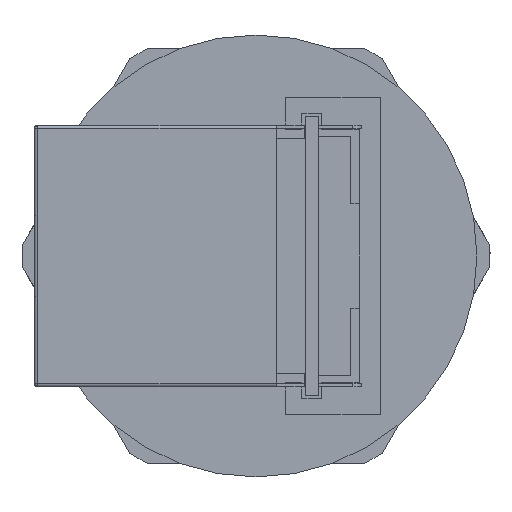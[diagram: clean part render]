
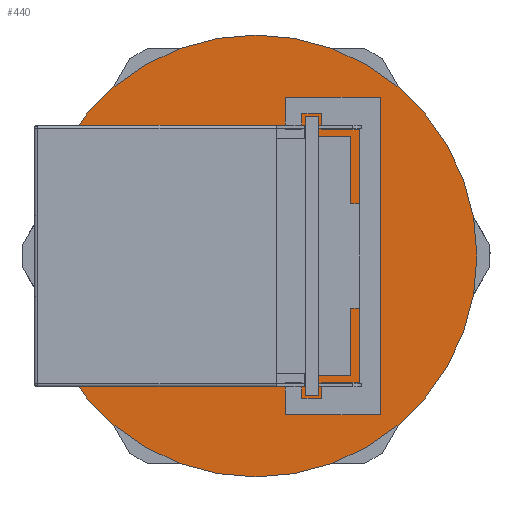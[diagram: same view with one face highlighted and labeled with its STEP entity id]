
A CAD part, left-side view. The second image highlights one B-rep face of the part: STEP entity #440.
In plain terms, the highlighted planar face has unit normal (-1, 0, 0).
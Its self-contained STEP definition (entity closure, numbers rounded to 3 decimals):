
#71=FACE_BOUND('',#1611,.T.);
#72=FACE_BOUND('',#1612,.T.);
#268=CIRCLE('',#8961,8.8);
#274=CIRCLE('',#8975,13.5);
#275=CIRCLE('',#8976,13.5);
#440=ADVANCED_FACE('',(#71,#72),#876,.T.);
#876=PLANE('',#8977);
#1611=EDGE_LOOP('',(#2361,#2362,#2363,#2364,#2365,#2366,#2367,#2368,#2369,
#2370,#2371,#2372,#2373,#2374,#2375,#2376,#2377,#2378,#2379,#2380,#2381,
#2382,#2383,#2384,#2385,#2386,#2387,#2388,#2389,#2390,#2391,#2392,#2393,
#2394,#2395,#2396));
#1612=EDGE_LOOP('',(#2397,#2398));
#2361=ORIENTED_EDGE('',*,*,#5793,.F.);
#2362=ORIENTED_EDGE('',*,*,#5726,.F.);
#2363=ORIENTED_EDGE('',*,*,#5735,.F.);
#2364=ORIENTED_EDGE('',*,*,#5750,.T.);
#2365=ORIENTED_EDGE('',*,*,#5757,.F.);
#2366=ORIENTED_EDGE('',*,*,#5794,.F.);
#2367=ORIENTED_EDGE('',*,*,#5795,.F.);
#2368=ORIENTED_EDGE('',*,*,#5796,.F.);
#2369=ORIENTED_EDGE('',*,*,#5797,.F.);
#2370=ORIENTED_EDGE('',*,*,#5798,.F.);
#2371=ORIENTED_EDGE('',*,*,#5764,.F.);
#2372=ORIENTED_EDGE('',*,*,#5799,.F.);
#2373=ORIENTED_EDGE('',*,*,#5800,.F.);
#2374=ORIENTED_EDGE('',*,*,#5801,.F.);
#2375=ORIENTED_EDGE('',*,*,#5768,.F.);
#2376=ORIENTED_EDGE('',*,*,#5802,.F.);
#2377=ORIENTED_EDGE('',*,*,#5803,.F.);
#2378=ORIENTED_EDGE('',*,*,#5804,.F.);
#2379=ORIENTED_EDGE('',*,*,#5805,.F.);
#2380=ORIENTED_EDGE('',*,*,#5806,.F.);
#2381=ORIENTED_EDGE('',*,*,#5753,.F.);
#2382=ORIENTED_EDGE('',*,*,#5786,.T.);
#2383=ORIENTED_EDGE('',*,*,#5731,.F.);
#2384=ORIENTED_EDGE('',*,*,#5739,.F.);
#2385=ORIENTED_EDGE('',*,*,#5807,.F.);
#2386=ORIENTED_EDGE('',*,*,#5808,.T.);
#2387=ORIENTED_EDGE('',*,*,#5809,.T.);
#2388=ORIENTED_EDGE('',*,*,#5737,.F.);
#2389=ORIENTED_EDGE('',*,*,#5722,.F.);
#2390=ORIENTED_EDGE('',*,*,#5745,.F.);
#2391=ORIENTED_EDGE('',*,*,#5747,.F.);
#2392=ORIENTED_EDGE('',*,*,#5741,.F.);
#2393=ORIENTED_EDGE('',*,*,#5718,.F.);
#2394=ORIENTED_EDGE('',*,*,#5728,.F.);
#2395=ORIENTED_EDGE('',*,*,#5810,.T.);
#2396=ORIENTED_EDGE('',*,*,#5811,.F.);
#2397=ORIENTED_EDGE('',*,*,#5812,.F.);
#2398=ORIENTED_EDGE('',*,*,#5813,.T.);
#4857=VERTEX_POINT('',#12722);
#4858=VERTEX_POINT('',#12724);
#4861=VERTEX_POINT('',#12731);
#4862=VERTEX_POINT('',#12733);
#4864=VERTEX_POINT('',#12739);
#4865=VERTEX_POINT('',#12741);
#4866=VERTEX_POINT('',#12743);
#4869=VERTEX_POINT('',#12750);
#4870=VERTEX_POINT('',#12752);
#4872=VERTEX_POINT('',#12758);
#4873=VERTEX_POINT('',#12763);
#4874=VERTEX_POINT('',#12765);
#4876=VERTEX_POINT('',#12771);
#4878=VERTEX_POINT('',#12777);
#4880=VERTEX_POINT('',#12786);
#4882=VERTEX_POINT('',#12792);
#4883=VERTEX_POINT('',#12794);
#4886=VERTEX_POINT('',#12800);
#4887=VERTEX_POINT('',#12804);
#4893=VERTEX_POINT('',#12815);
#4897=VERTEX_POINT('',#12824);
#4898=VERTEX_POINT('',#12826);
#4916=VERTEX_POINT('',#12894);
#4917=VERTEX_POINT('',#12896);
#4918=VERTEX_POINT('',#12898);
#4919=VERTEX_POINT('',#12900);
#4920=VERTEX_POINT('',#12902);
#4921=VERTEX_POINT('',#12905);
#4922=VERTEX_POINT('',#12907);
#4923=VERTEX_POINT('',#12910);
#4924=VERTEX_POINT('',#12912);
#4925=VERTEX_POINT('',#12914);
#4926=VERTEX_POINT('',#12916);
#4927=VERTEX_POINT('',#12919);
#4928=VERTEX_POINT('',#12921);
#4929=VERTEX_POINT('',#12924);
#4930=VERTEX_POINT('',#12927);
#4931=VERTEX_POINT('',#12928);
#5718=EDGE_CURVE('',#4857,#4858,#6992,.T.);
#5722=EDGE_CURVE('',#4861,#4862,#6996,.T.);
#5726=EDGE_CURVE('',#4864,#4865,#7000,.T.);
#5728=EDGE_CURVE('',#4866,#4857,#7002,.T.);
#5731=EDGE_CURVE('',#4869,#4870,#7005,.T.);
#5735=EDGE_CURVE('',#4872,#4864,#7009,.T.);
#5737=EDGE_CURVE('',#4862,#4873,#7011,.T.);
#5739=EDGE_CURVE('',#4874,#4869,#7013,.T.);
#5741=EDGE_CURVE('',#4858,#4876,#7015,.T.);
#5745=EDGE_CURVE('',#4878,#4861,#7019,.T.);
#5747=EDGE_CURVE('',#4876,#4878,#268,.T.);
#5750=EDGE_CURVE('',#4872,#4880,#7022,.T.);
#5753=EDGE_CURVE('',#4882,#4883,#7025,.T.);
#5757=EDGE_CURVE('',#4886,#4880,#7029,.T.);
#5764=EDGE_CURVE('',#4893,#4887,#7035,.T.);
#5768=EDGE_CURVE('',#4897,#4898,#7038,.T.);
#5786=EDGE_CURVE('',#4882,#4870,#7056,.T.);
#5793=EDGE_CURVE('',#4865,#4916,#7057,.T.);
#5794=EDGE_CURVE('',#4917,#4886,#7058,.T.);
#5795=EDGE_CURVE('',#4918,#4917,#7059,.T.);
#5796=EDGE_CURVE('',#4919,#4918,#7060,.T.);
#5797=EDGE_CURVE('',#4920,#4919,#7061,.T.);
#5798=EDGE_CURVE('',#4887,#4920,#7062,.T.);
#5799=EDGE_CURVE('',#4921,#4893,#7063,.T.);
#5800=EDGE_CURVE('',#4922,#4921,#7064,.T.);
#5801=EDGE_CURVE('',#4898,#4922,#7065,.T.);
#5802=EDGE_CURVE('',#4923,#4897,#7066,.T.);
#5803=EDGE_CURVE('',#4924,#4923,#7067,.T.);
#5804=EDGE_CURVE('',#4925,#4924,#7068,.T.);
#5805=EDGE_CURVE('',#4926,#4925,#7069,.T.);
#5806=EDGE_CURVE('',#4883,#4926,#7070,.T.);
#5807=EDGE_CURVE('',#4927,#4874,#7071,.T.);
#5808=EDGE_CURVE('',#4927,#4928,#7072,.T.);
#5809=EDGE_CURVE('',#4928,#4873,#7073,.T.);
#5810=EDGE_CURVE('',#4866,#4929,#7074,.T.);
#5811=EDGE_CURVE('',#4916,#4929,#7075,.T.);
#5812=EDGE_CURVE('',#4930,#4931,#274,.T.);
#5813=EDGE_CURVE('',#4930,#4931,#275,.T.);
#6992=LINE('',#12723,#7980);
#6996=LINE('',#12732,#7984);
#7000=LINE('',#12740,#7988);
#7002=LINE('',#12744,#7990);
#7005=LINE('',#12751,#7993);
#7009=LINE('',#12759,#7997);
#7011=LINE('',#12762,#7999);
#7013=LINE('',#12766,#8001);
#7015=LINE('',#12770,#8003);
#7019=LINE('',#12778,#8007);
#7022=LINE('',#12787,#8010);
#7025=LINE('',#12793,#8013);
#7029=LINE('',#12801,#8017);
#7035=LINE('',#12816,#8023);
#7038=LINE('',#12825,#8026);
#7056=LINE('',#12858,#8044);
#7057=LINE('',#12893,#8045);
#7058=LINE('',#12895,#8046);
#7059=LINE('',#12897,#8047);
#7060=LINE('',#12899,#8048);
#7061=LINE('',#12901,#8049);
#7062=LINE('',#12903,#8050);
#7063=LINE('',#12904,#8051);
#7064=LINE('',#12906,#8052);
#7065=LINE('',#12908,#8053);
#7066=LINE('',#12909,#8054);
#7067=LINE('',#12911,#8055);
#7068=LINE('',#12913,#8056);
#7069=LINE('',#12915,#8057);
#7070=LINE('',#12917,#8058);
#7071=LINE('',#12918,#8059);
#7072=LINE('',#12920,#8060);
#7073=LINE('',#12922,#8061);
#7074=LINE('',#12923,#8062);
#7075=LINE('',#12925,#8063);
#7980=VECTOR('',#9549,1.);
#7984=VECTOR('',#9555,1.);
#7988=VECTOR('',#9561,1.);
#7990=VECTOR('',#9563,1.);
#7993=VECTOR('',#9568,1.);
#7997=VECTOR('',#9574,1.);
#7999=VECTOR('',#9578,1.);
#8001=VECTOR('',#9580,1.);
#8003=VECTOR('',#9584,1.);
#8007=VECTOR('',#9590,1.);
#8010=VECTOR('',#9601,1.);
#8013=VECTOR('',#9606,1.);
#8017=VECTOR('',#9610,1.);
#8023=VECTOR('',#9620,1.);
#8026=VECTOR('',#9627,1.);
#8044=VECTOR('',#9649,1.);
#8045=VECTOR('',#9660,1.);
#8046=VECTOR('',#9661,1.);
#8047=VECTOR('',#9662,1.);
#8048=VECTOR('',#9663,1.);
#8049=VECTOR('',#9664,1.);
#8050=VECTOR('',#9665,1.);
#8051=VECTOR('',#9666,1.);
#8052=VECTOR('',#9667,1.);
#8053=VECTOR('',#9668,1.);
#8054=VECTOR('',#9669,1.);
#8055=VECTOR('',#9670,1.);
#8056=VECTOR('',#9671,1.);
#8057=VECTOR('',#9672,1.);
#8058=VECTOR('',#9673,1.);
#8059=VECTOR('',#9674,1.);
#8060=VECTOR('',#9675,1.);
#8061=VECTOR('',#9676,1.);
#8062=VECTOR('',#9677,1.);
#8063=VECTOR('',#9678,1.);
#8961=AXIS2_PLACEMENT_3D('',#12781,#9595,#9596);
#8975=AXIS2_PLACEMENT_3D('',#12926,#9679,#9680);
#8976=AXIS2_PLACEMENT_3D('',#12929,#9681,#9682);
#8977=AXIS2_PLACEMENT_3D('',#12930,#9683,#9684);
#9549=DIRECTION('',(0.,0.,-1.));
#9555=DIRECTION('',(0.,0.,-1.));
#9561=DIRECTION('',(0.,1.,0.));
#9563=DIRECTION('',(0.,1.,0.));
#9568=DIRECTION('',(0.,0.,1.));
#9574=DIRECTION('',(0.,0.,1.));
#9578=DIRECTION('',(0.,-1.,0.));
#9580=DIRECTION('',(0.,-1.,0.));
#9584=DIRECTION('',(0.,1.,0.));
#9590=DIRECTION('',(0.,-1.,0.));
#9595=DIRECTION('',(-1.,0.,0.));
#9596=DIRECTION('',(0.,0.932,0.364));
#9601=DIRECTION('',(0.,-1.,0.));
#9606=DIRECTION('',(0.,0.,-1.));
#9610=DIRECTION('',(0.,0.,-1.));
#9620=DIRECTION('',(0.,0.,-1.));
#9627=DIRECTION('',(0.,0.,-1.));
#9649=DIRECTION('',(0.,1.,0.));
#9660=DIRECTION('',(0.,0.,1.));
#9661=DIRECTION('',(0.,-1.,0.));
#9662=DIRECTION('',(0.,0.,-1.));
#9663=DIRECTION('',(0.,-1.,0.));
#9664=DIRECTION('',(0.,0.,1.));
#9665=DIRECTION('',(0.,-1.,0.));
#9666=DIRECTION('',(0.,1.,0.));
#9667=DIRECTION('',(0.,0.,1.));
#9668=DIRECTION('',(0.,-1.,0.));
#9669=DIRECTION('',(0.,1.,0.));
#9670=DIRECTION('',(0.,0.,1.));
#9671=DIRECTION('',(0.,1.,0.));
#9672=DIRECTION('',(0.,0.,-1.));
#9673=DIRECTION('',(0.,1.,0.));
#9674=DIRECTION('',(0.,0.,1.));
#9675=DIRECTION('',(0.,1.,0.));
#9676=DIRECTION('',(0.,0.,1.));
#9677=DIRECTION('',(0.,0.,1.));
#9678=DIRECTION('',(0.,1.,0.));
#9679=DIRECTION('',(1.,0.,0.));
#9680=DIRECTION('',(0.,0.,1.));
#9681=DIRECTION('',(-1.,0.,0.));
#9682=DIRECTION('',(0.,0.,1.));
#9683=DIRECTION('',(-1.,0.,0.));
#9684=DIRECTION('',(0.,1.,0.));
#12722=CARTESIAN_POINT('',(-27.4,5.8,7.3));
#12723=CARTESIAN_POINT('',(-27.4,5.8,7.3));
#12724=CARTESIAN_POINT('',(-27.4,5.8,3.2));
#12731=CARTESIAN_POINT('',(-27.4,5.8,-3.2));
#12732=CARTESIAN_POINT('',(-27.4,5.8,-3.2));
#12733=CARTESIAN_POINT('',(-27.4,5.8,-7.3));
#12739=CARTESIAN_POINT('',(-27.4,-5.8,7.3));
#12740=CARTESIAN_POINT('',(-27.4,-5.8,7.3));
#12741=CARTESIAN_POINT('',(-27.4,-3.8,7.3));
#12743=CARTESIAN_POINT('',(-27.4,-3.,7.3));
#12744=CARTESIAN_POINT('',(-27.4,-5.8,7.3));
#12750=CARTESIAN_POINT('',(-27.4,-5.8,-7.3));
#12751=CARTESIAN_POINT('',(-27.4,-5.8,-7.3));
#12752=CARTESIAN_POINT('',(-27.4,-5.8,-3.2));
#12758=CARTESIAN_POINT('',(-27.4,-5.8,3.2));
#12759=CARTESIAN_POINT('',(-27.4,-5.8,3.2));
#12762=CARTESIAN_POINT('',(-27.4,5.8,-7.3));
#12763=CARTESIAN_POINT('',(-27.4,-3.,-7.3));
#12765=CARTESIAN_POINT('',(-27.4,-3.8,-7.3));
#12766=CARTESIAN_POINT('',(-27.4,5.8,-7.3));
#12770=CARTESIAN_POINT('',(-27.4,5.8,3.2));
#12771=CARTESIAN_POINT('',(-27.4,8.198,3.2));
#12777=CARTESIAN_POINT('',(-27.4,8.198,-3.2));
#12778=CARTESIAN_POINT('',(-27.4,8.198,-3.2));
#12781=CARTESIAN_POINT('',(-27.4,0.,0.));
#12786=CARTESIAN_POINT('',(-27.4,-6.3,3.2));
#12787=CARTESIAN_POINT('',(-27.4,-5.8,3.2));
#12792=CARTESIAN_POINT('',(-27.4,-6.3,-3.2));
#12793=CARTESIAN_POINT('',(-27.4,-6.3,-3.2));
#12794=CARTESIAN_POINT('',(-27.4,-6.3,-7.7));
#12800=CARTESIAN_POINT('',(-27.4,-6.3,7.7));
#12801=CARTESIAN_POINT('',(-27.4,-6.3,7.7));
#12804=CARTESIAN_POINT('',(-27.4,-1.8,7.7));
#12815=CARTESIAN_POINT('',(-27.4,-1.8,9.7));
#12816=CARTESIAN_POINT('',(-27.4,-1.8,9.7));
#12824=CARTESIAN_POINT('',(-27.4,-1.8,-7.7));
#12825=CARTESIAN_POINT('',(-27.4,-1.8,-7.7));
#12826=CARTESIAN_POINT('',(-27.4,-1.8,-9.7));
#12858=CARTESIAN_POINT('',(-27.4,-6.3,-3.2));
#12893=CARTESIAN_POINT('',(-27.4,-3.8,7.2));
#12894=CARTESIAN_POINT('',(-27.4,-3.8,8.5));
#12895=CARTESIAN_POINT('',(-27.4,-4.,7.7));
#12896=CARTESIAN_POINT('',(-27.4,-4.,7.7));
#12897=CARTESIAN_POINT('',(-27.4,-4.,8.7));
#12898=CARTESIAN_POINT('',(-27.4,-4.,8.7));
#12899=CARTESIAN_POINT('',(-27.4,-2.8,8.7));
#12900=CARTESIAN_POINT('',(-27.4,-2.8,8.7));
#12901=CARTESIAN_POINT('',(-27.4,-2.8,7.7));
#12902=CARTESIAN_POINT('',(-27.4,-2.8,7.7));
#12903=CARTESIAN_POINT('',(-27.4,-1.8,7.7));
#12904=CARTESIAN_POINT('',(-27.4,-7.6,9.7));
#12905=CARTESIAN_POINT('',(-27.4,-7.6,9.7));
#12906=CARTESIAN_POINT('',(-27.4,-7.6,-9.7));
#12907=CARTESIAN_POINT('',(-27.4,-7.6,-9.7));
#12908=CARTESIAN_POINT('',(-27.4,-1.8,-9.7));
#12909=CARTESIAN_POINT('',(-27.4,-2.8,-7.7));
#12910=CARTESIAN_POINT('',(-27.4,-2.8,-7.7));
#12911=CARTESIAN_POINT('',(-27.4,-2.8,-8.7));
#12912=CARTESIAN_POINT('',(-27.4,-2.8,-8.7));
#12913=CARTESIAN_POINT('',(-27.4,-4.,-8.7));
#12914=CARTESIAN_POINT('',(-27.4,-4.,-8.7));
#12915=CARTESIAN_POINT('',(-27.4,-4.,-7.7));
#12916=CARTESIAN_POINT('',(-27.4,-4.,-7.7));
#12917=CARTESIAN_POINT('',(-27.4,-6.3,-7.7));
#12918=CARTESIAN_POINT('',(-27.4,-3.8,-8.5));
#12919=CARTESIAN_POINT('',(-27.4,-3.8,-8.5));
#12920=CARTESIAN_POINT('',(-27.4,-3.8,-8.5));
#12921=CARTESIAN_POINT('',(-27.4,-3.,-8.5));
#12922=CARTESIAN_POINT('',(-27.4,-3.,-8.5));
#12923=CARTESIAN_POINT('',(-27.4,-3.,7.2));
#12924=CARTESIAN_POINT('',(-27.4,-3.,8.5));
#12925=CARTESIAN_POINT('',(-27.4,-3.8,8.5));
#12926=CARTESIAN_POINT('',(-27.4,0.,0.));
#12927=CARTESIAN_POINT('',(-27.4,0.,13.5));
#12928=CARTESIAN_POINT('',(-27.4,0.,-13.5));
#12929=CARTESIAN_POINT('',(-27.4,0.,0.));
#12930=CARTESIAN_POINT('',(-27.4,0.,0.));
